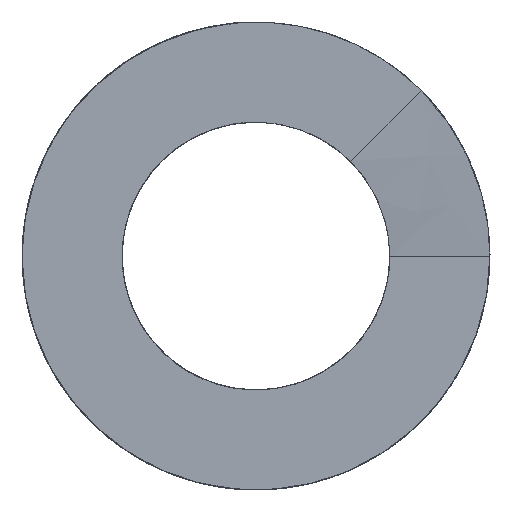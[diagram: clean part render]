
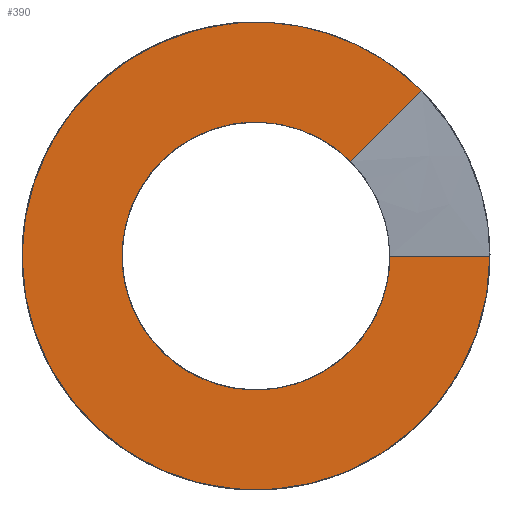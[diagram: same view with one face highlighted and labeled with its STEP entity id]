
A CAD part, front view. The second image highlights one B-rep face of the part: STEP entity #390.
In plain terms, the highlighted planar face has unit normal (0, -1, 0).
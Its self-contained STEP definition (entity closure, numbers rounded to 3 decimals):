
#36=LINE('',#2309,#44);
#44=VECTOR('',#461,10.);
#74=B_SPLINE_CURVE_WITH_KNOTS('',3,(#1758,#1759,#1760,#1761,#1762,#1763,
#1764,#1765,#1766,#1767,#1768,#1769,#1770,#1771,#1772,#1773,#1774,#1775,
#1776,#1777,#1778,#1779,#1780,#1781,#1782,#1783,#1784,#1785,#1786,#1787,
#1788,#1789,#1790,#1791,#1792,#1793,#1794,#1795,#1796,#1797,#1798,#1799),
 .UNSPECIFIED.,.F.,.F.,(4,2,2,2,2,2,2,2,2,2,2,2,2,2,2,2,2,2,2,2,4),(-2.952,
-2.832,-2.712,-2.503,-2.316,
-2.148,-2.,-1.876,-1.759,
-1.731,-1.716,-1.695,-1.674,-1.464,
-1.255,-1.046,-0.837,-0.628,
-0.418,-0.209,0.),.UNSPECIFIED.);
#83=B_SPLINE_CURVE_WITH_KNOTS('',3,(#2209,#2210,#2211,#2212,#2213,#2214,
#2215,#2216,#2217,#2218,#2219,#2220,#2221,#2222,#2223,#2224,#2225,#2226,
#2227,#2228,#2229,#2230,#2231,#2232,#2233,#2234,#2235,#2236,#2237,#2238,
#2239,#2240,#2241,#2242,#2243,#2244,#2245,#2246,#2247,#2248),
 .UNSPECIFIED.,.F.,.F.,(4,2,2,2,2,2,2,2,2,2,2,2,2,2,2,2,2,2,2,4),(-5.157,
-4.793,-4.428,-4.063,-3.697,
-3.332,-2.966,-2.601,-2.235,
-2.188,-2.156,-2.128,-2.086,
-1.919,-1.613,-1.368,-1.101,
-0.731,-0.365,0.),.UNSPECIFIED.);
#89=B_SPLINE_CURVE_WITH_KNOTS('',3,(#2303,#2304,#2305,#2306,#2307,#2308),
 .UNSPECIFIED.,.F.,.F.,(4,2,4),(-0.4,-0.2,0.),.UNSPECIFIED.);
#114=FACE_OUTER_BOUND('',#140,.T.);
#140=EDGE_LOOP('',(#335,#336,#337,#338));
#171=VERTEX_POINT('',#1487);
#178=VERTEX_POINT('',#1753);
#181=VERTEX_POINT('',#1896);
#186=VERTEX_POINT('',#2208);
#224=EDGE_CURVE('',#178,#171,#74,.T.);
#235=EDGE_CURVE('',#181,#186,#83,.T.);
#242=EDGE_CURVE('',#186,#178,#89,.T.);
#243=EDGE_CURVE('',#171,#181,#36,.T.);
#335=ORIENTED_EDGE('',*,*,#242,.F.);
#336=ORIENTED_EDGE('',*,*,#235,.F.);
#337=ORIENTED_EDGE('',*,*,#243,.F.);
#338=ORIENTED_EDGE('',*,*,#224,.F.);
#372=PLANE('',#429);
#390=ADVANCED_FACE('',(#114),#372,.F.);
#429=AXIS2_PLACEMENT_3D('',#2302,#459,#460);
#459=DIRECTION('center_axis',(0.,1.,0.));
#460=DIRECTION('ref_axis',(0.,0.,1.));
#461=DIRECTION('',(1.,0.,0.));
#1487=CARTESIAN_POINT('',(5.355,0.,0.));
#1753=CARTESIAN_POINT('',(3.787,0.,3.787));
#1758=CARTESIAN_POINT('Ctrl Pts',(3.787,0.,
3.787));
#1759=CARTESIAN_POINT('Ctrl Pts',(3.504,0.,
4.069));
#1760=CARTESIAN_POINT('Ctrl Pts',(3.19,0.,
4.32));
#1761=CARTESIAN_POINT('Ctrl Pts',(2.513,0.,
4.746));
#1762=CARTESIAN_POINT('Ctrl Pts',(2.152,0.,
4.92));
#1763=CARTESIAN_POINT('Ctrl Pts',(1.118,0.,
5.283));
#1764=CARTESIAN_POINT('Ctrl Pts',(0.424,0.,
5.383));
#1765=CARTESIAN_POINT('Ctrl Pts',(-0.895,0.,
5.317));
#1766=CARTESIAN_POINT('Ctrl Pts',(-1.509,0.,
5.176));
#1767=CARTESIAN_POINT('Ctrl Pts',(-2.599,0.,
4.715));
#1768=CARTESIAN_POINT('Ctrl Pts',(-3.077,0.,
4.419));
#1769=CARTESIAN_POINT('Ctrl Pts',(-3.873,0.,
3.731));
#1770=CARTESIAN_POINT('Ctrl Pts',(-4.2,0.,
3.359));
#1771=CARTESIAN_POINT('Ctrl Pts',(-4.699,0.,
2.602));
#1772=CARTESIAN_POINT('Ctrl Pts',(-4.885,0.,
2.232));
#1773=CARTESIAN_POINT('Ctrl Pts',(-5.162,0.,
1.478));
#1774=CARTESIAN_POINT('Ctrl Pts',(-5.255,0.,
1.099));
#1775=CARTESIAN_POINT('Ctrl Pts',(-5.32,0.,
0.622));
#1776=CARTESIAN_POINT('Ctrl Pts',(-5.329,0.,
0.53));
#1777=CARTESIAN_POINT('Ctrl Pts',(-5.341,0.,
0.387));
#1778=CARTESIAN_POINT('Ctrl Pts',(-5.345,0.,
0.335));
#1779=CARTESIAN_POINT('Ctrl Pts',(-5.351,0.,
0.215));
#1780=CARTESIAN_POINT('Ctrl Pts',(-5.353,0.,
0.146));
#1781=CARTESIAN_POINT('Ctrl Pts',(-5.355,0.,
0.005));
#1782=CARTESIAN_POINT('Ctrl Pts',(-5.355,0.,-0.068));
#1783=CARTESIAN_POINT('Ctrl Pts',(-5.335,0.,-0.838));
#1784=CARTESIAN_POINT('Ctrl Pts',(-5.181,0.,-1.524));
#1785=CARTESIAN_POINT('Ctrl Pts',(-4.617,0.,-2.8));
#1786=CARTESIAN_POINT('Ctrl Pts',(-4.214,0.,-3.377));
#1787=CARTESIAN_POINT('Ctrl Pts',(-3.209,0.,-4.344));
#1788=CARTESIAN_POINT('Ctrl Pts',(-2.616,0.,-4.724));
#1789=CARTESIAN_POINT('Ctrl Pts',(-1.319,0.,-5.237));
#1790=CARTESIAN_POINT('Ctrl Pts',(-0.627,0.,-5.364));
#1791=CARTESIAN_POINT('Ctrl Pts',(0.768,0.,-5.345));
#1792=CARTESIAN_POINT('Ctrl Pts',(1.456,0.,-5.2));
#1793=CARTESIAN_POINT('Ctrl Pts',(2.739,0.,-4.654));
#1794=CARTESIAN_POINT('Ctrl Pts',(3.322,0.,-4.258));
#1795=CARTESIAN_POINT('Ctrl Pts',(4.301,0.,-3.265));
#1796=CARTESIAN_POINT('Ctrl Pts',(4.689,0.,-2.678));
#1797=CARTESIAN_POINT('Ctrl Pts',(5.219,0.,-1.388));
#1798=CARTESIAN_POINT('Ctrl Pts',(5.355,0.,-0.697));
#1799=CARTESIAN_POINT('Ctrl Pts',(5.355,0.,0.));
#1896=CARTESIAN_POINT('',(9.355,0.,0.));
#2208=CARTESIAN_POINT('',(6.615,0.,6.615));
#2209=CARTESIAN_POINT('Ctrl Pts',(9.355,0.,0.));
#2210=CARTESIAN_POINT('Ctrl Pts',(9.355,0.,-1.215));
#2211=CARTESIAN_POINT('Ctrl Pts',(9.118,0.,-2.419));
#2212=CARTESIAN_POINT('Ctrl Pts',(8.197,0.,-4.669));
#2213=CARTESIAN_POINT('Ctrl Pts',(7.522,0.,-5.693));
#2214=CARTESIAN_POINT('Ctrl Pts',(5.815,0.,-7.428));
#2215=CARTESIAN_POINT('Ctrl Pts',(4.8,0.,-8.122));
#2216=CARTESIAN_POINT('Ctrl Pts',(2.56,0.,-9.08));
#2217=CARTESIAN_POINT('Ctrl Pts',(1.357,0.,-9.336));
#2218=CARTESIAN_POINT('Ctrl Pts',(-1.079,0.,-9.372));
#2219=CARTESIAN_POINT('Ctrl Pts',(-2.289,0.,-9.152));
#2220=CARTESIAN_POINT('Ctrl Pts',(-4.556,0.,-8.261));
#2221=CARTESIAN_POINT('Ctrl Pts',(-5.592,0.,-7.598));
#2222=CARTESIAN_POINT('Ctrl Pts',(-7.351,0.,-5.912));
#2223=CARTESIAN_POINT('Ctrl Pts',(-8.058,0.,-4.906));
#2224=CARTESIAN_POINT('Ctrl Pts',(-9.046,0.,-2.679));
#2225=CARTESIAN_POINT('Ctrl Pts',(-9.317,0.,-1.479));
#2226=CARTESIAN_POINT('Ctrl Pts',(-9.356,0.,-0.103));
#2227=CARTESIAN_POINT('Ctrl Pts',(-9.356,0.,
0.056));
#2228=CARTESIAN_POINT('Ctrl Pts',(-9.35,0.,
0.319));
#2229=CARTESIAN_POINT('Ctrl Pts',(-9.346,0.,
0.424));
#2230=CARTESIAN_POINT('Ctrl Pts',(-9.335,0.,
0.622));
#2231=CARTESIAN_POINT('Ctrl Pts',(-9.328,0.,
0.715));
#2232=CARTESIAN_POINT('Ctrl Pts',(-9.308,0.,
0.95));
#2233=CARTESIAN_POINT('Ctrl Pts',(-9.292,0.,
1.09));
#2234=CARTESIAN_POINT('Ctrl Pts',(-9.201,0.,
1.782));
#2235=CARTESIAN_POINT('Ctrl Pts',(-9.078,0.,
2.325));
#2236=CARTESIAN_POINT('Ctrl Pts',(-8.597,0.,
3.827));
#2237=CARTESIAN_POINT('Ctrl Pts',(-8.129,0.,
4.741));
#2238=CARTESIAN_POINT('Ctrl Pts',(-7.038,0.,
6.217));
#2239=CARTESIAN_POINT('Ctrl Pts',(-6.47,0.,
6.806));
#2240=CARTESIAN_POINT('Ctrl Pts',(-5.135,0.,
7.871));
#2241=CARTESIAN_POINT('Ctrl Pts',(-4.361,0.,
8.325));
#2242=CARTESIAN_POINT('Ctrl Pts',(-2.393,0.,
9.127));
#2243=CARTESIAN_POINT('Ctrl Pts',(-1.171,0.,
9.363));
#2244=CARTESIAN_POINT('Ctrl Pts',(1.28,0.,
9.347));
#2245=CARTESIAN_POINT('Ctrl Pts',(2.484,0.,
9.101));
#2246=CARTESIAN_POINT('Ctrl Pts',(4.732,0.,
8.161));
#2247=CARTESIAN_POINT('Ctrl Pts',(5.754,0.,
7.476));
#2248=CARTESIAN_POINT('Ctrl Pts',(6.615,0.,
6.615));
#2302=CARTESIAN_POINT('Origin',(0.,0.,0.));
#2303=CARTESIAN_POINT('Ctrl Pts',(6.615,0.,
6.615));
#2304=CARTESIAN_POINT('Ctrl Pts',(6.144,0.,
6.144));
#2305=CARTESIAN_POINT('Ctrl Pts',(5.672,0.,5.672));
#2306=CARTESIAN_POINT('Ctrl Pts',(4.729,0.,4.729));
#2307=CARTESIAN_POINT('Ctrl Pts',(4.258,0.,
4.258));
#2308=CARTESIAN_POINT('Ctrl Pts',(3.787,0.,
3.787));
#2309=CARTESIAN_POINT('',(3.678,0.,0.));
